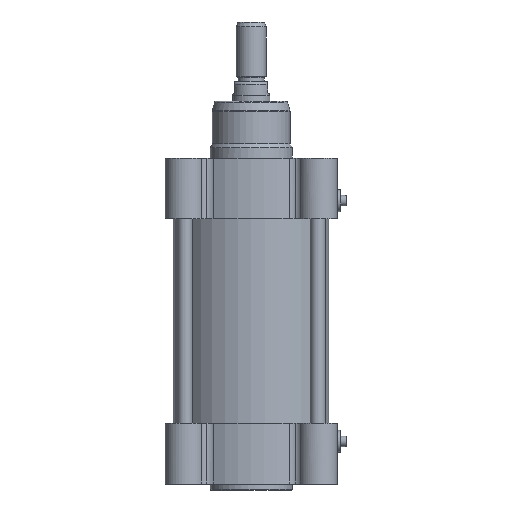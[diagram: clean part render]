
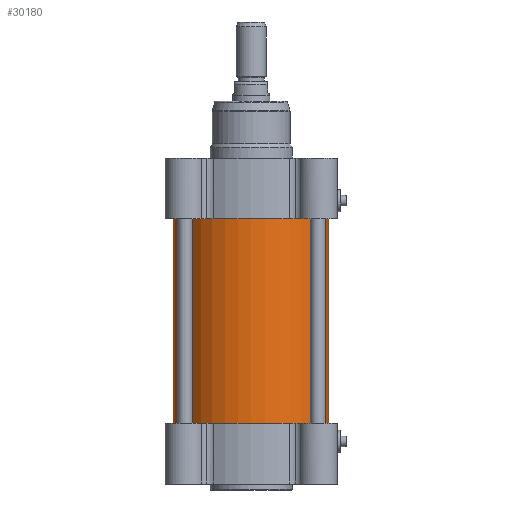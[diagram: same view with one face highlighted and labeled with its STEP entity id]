
A CAD part, front view. The second image highlights one B-rep face of the part: STEP entity #30180.
In plain terms, the highlighted cylindrical face has radius 52 mm (diameter 104 mm), a partial arc.
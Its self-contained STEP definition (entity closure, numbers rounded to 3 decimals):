
#945 = LINE ( 'NONE', #18430, #3767 ) ;
#1054 = CARTESIAN_POINT ( 'NONE',  ( 0., 0., 0. ) ) ;
#2037 = DIRECTION ( 'NONE',  ( 0., 0., -1. ) ) ;
#2359 = AXIS2_PLACEMENT_3D ( 'NONE', #17252, #29624, #22347 ) ;
#3177 = CARTESIAN_POINT ( 'NONE',  ( -52., 0., 0. ) ) ;
#3767 = VECTOR ( 'NONE', #16132, 1000. ) ;
#4788 = VECTOR ( 'NONE', #18176, 1000. ) ;
#5936 = ORIENTED_EDGE ( 'NONE', *, *, #20919, .F. ) ;
#6473 = VERTEX_POINT ( 'NONE', #28051 ) ;
#6663 = ORIENTED_EDGE ( 'NONE', *, *, #7307, .F. ) ;
#7307 = EDGE_CURVE ( 'NONE', #11625, #6473, #26074, .T. ) ;
#9499 = AXIS2_PLACEMENT_3D ( 'NONE', #24592, #2037, #22134 ) ;
#10717 = ORIENTED_EDGE ( 'NONE', *, *, #22099, .T. ) ;
#10953 = FACE_OUTER_BOUND ( 'NONE', #17127, .T. ) ;
#11625 = VERTEX_POINT ( 'NONE', #30105 ) ;
#12151 = CIRCLE ( 'NONE', #9499, 52. ) ;
#12370 = EDGE_CURVE ( 'NONE', #6473, #31499, #19722, .T. ) ;
#13998 = VERTEX_POINT ( 'NONE', #26706 ) ;
#16132 = DIRECTION ( 'NONE',  ( 0., 0., 1. ) ) ;
#17127 = EDGE_LOOP ( 'NONE', ( #5936, #10717, #28412, #6663 ) ) ;
#17252 = CARTESIAN_POINT ( 'NONE',  ( 0., 0., 136.8 ) ) ;
#18176 = DIRECTION ( 'NONE',  ( 0., 0., 1. ) ) ;
#18430 = CARTESIAN_POINT ( 'NONE',  ( 52., 0., 0. ) ) ;
#19722 = CIRCLE ( 'NONE', #2359, 52. ) ;
#19922 = CARTESIAN_POINT ( 'NONE',  ( 52., 0., 136.8 ) ) ;
#20919 = EDGE_CURVE ( 'NONE', #13998, #11625, #12151, .T. ) ;
#22099 = EDGE_CURVE ( 'NONE', #13998, #31499, #945, .T. ) ;
#22134 = DIRECTION ( 'NONE',  ( -1., 0., 0. ) ) ;
#22347 = DIRECTION ( 'NONE',  ( -1., 0., 0. ) ) ;
#24592 = CARTESIAN_POINT ( 'NONE',  ( 0., 0., 0.2 ) ) ;
#26074 = LINE ( 'NONE', #3177, #4788 ) ;
#26706 = CARTESIAN_POINT ( 'NONE',  ( 52., 0., 0.2 ) ) ;
#28051 = CARTESIAN_POINT ( 'NONE',  ( -52., 0., 136.8 ) ) ;
#28232 = DIRECTION ( 'NONE',  ( -1., 0., 0. ) ) ;
#28412 = ORIENTED_EDGE ( 'NONE', *, *, #12370, .F. ) ;
#29624 = DIRECTION ( 'NONE',  ( 0., 0., 1. ) ) ;
#30105 = CARTESIAN_POINT ( 'NONE',  ( -52., 0., 0.2 ) ) ;
#30180 = ADVANCED_FACE ( 'NONE', ( #10953 ), #30563, .T. ) ;
#30563 = CYLINDRICAL_SURFACE ( 'NONE', #31764, 52. ) ;
#31052 = DIRECTION ( 'NONE',  ( 0., 0., 1. ) ) ;
#31499 = VERTEX_POINT ( 'NONE', #19922 ) ;
#31764 = AXIS2_PLACEMENT_3D ( 'NONE', #1054, #31052, #28232 ) ;
